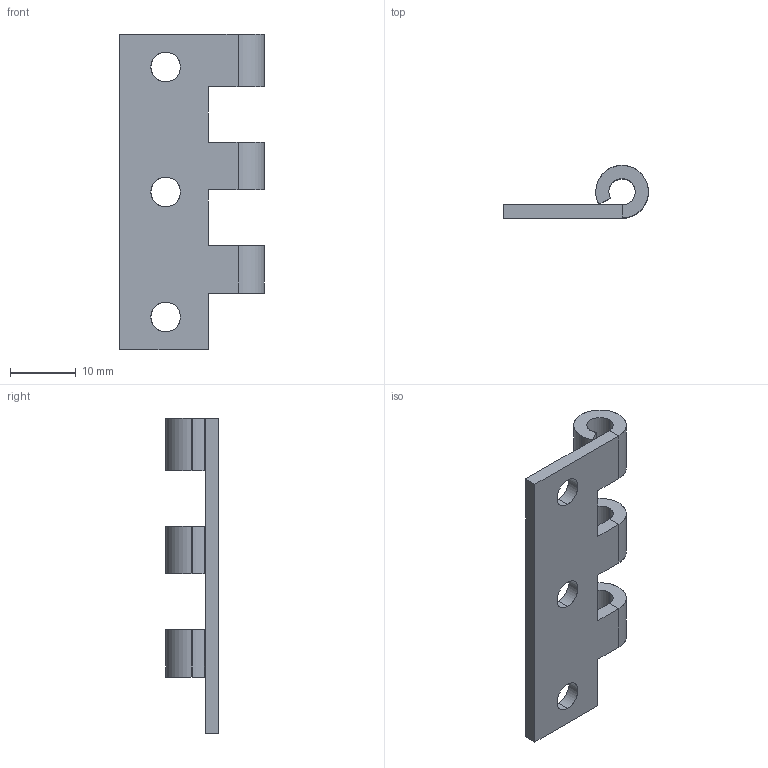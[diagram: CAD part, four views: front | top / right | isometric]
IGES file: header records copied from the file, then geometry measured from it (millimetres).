
Start section: SolidWorks IGES file using analytic representation for surfaces
Global section: file name: Z:\Mes documents\ATAO iges\Gamme CL\CL 438\438 010 010.IGS; native system: SolidWorks 2008; preprocessor: SolidWorks 2008; author: cbrechard; date: 110628.183303; units: millimetre
Bounding box: 22 x 8 x 48 mm (x, y, z)
Surface area: 2673.1 mm2 (no closed solid volume)
Topology: 0 solids, 0 shells, 46 faces, 696 edges, 696 vertices
Faces by surface type: revolution 24, bspline 22
